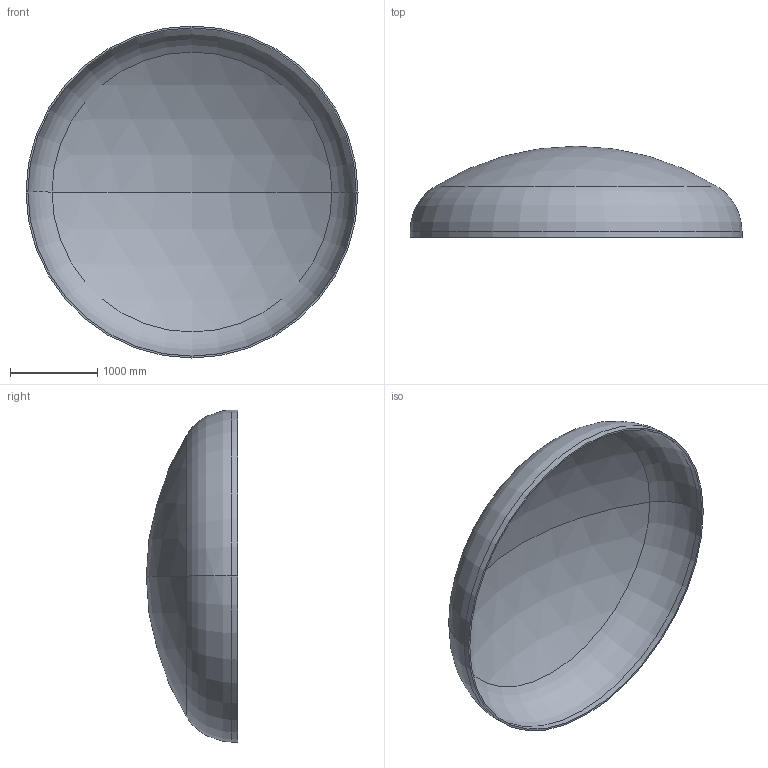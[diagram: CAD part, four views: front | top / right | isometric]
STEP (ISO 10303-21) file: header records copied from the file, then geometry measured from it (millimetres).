
FILE_DESCRIPTION (( 'STEP AP203' ), '1' );
FILE_NAME ('DIN 28013 Korbbogenform_-_Boden DIN 28013 - 3800 x 70 - I - s=21.step', '2016-07-01T21:09:16', ( '' ), ( '' ), 'SwSTEP 2.0', 'SolidWorks 2013', '' );
FILE_SCHEMA (( 'CONFIG_CONTROL_DESIGN' ));
Length unit declared in the file: millimetre
Products named in the file (1): DIN 28013 Korbbogenform_-_Boden DIN 28013 - 3800 x 70 - I - s=21
Bounding box: 3800 x 1044.71 x 3800 mm (x, y, z)
Volume: 344892101 mm3; surface area: 33097091.2 mm2
Topology: 1 solids, 1 shells, 13 faces, 24 edges, 14 vertices
Faces by surface type: torus 4, cylinder 4, sphere 4, plane 1
Entity records: 407 total; most frequent: DIRECTION 72, CARTESIAN_POINT 52, ORIENTED_EDGE 48, AXIS2_PLACEMENT_3D 34, EDGE_CURVE 24, CIRCLE 20, VERTEX_POINT 14, EDGE_LOOP 14
